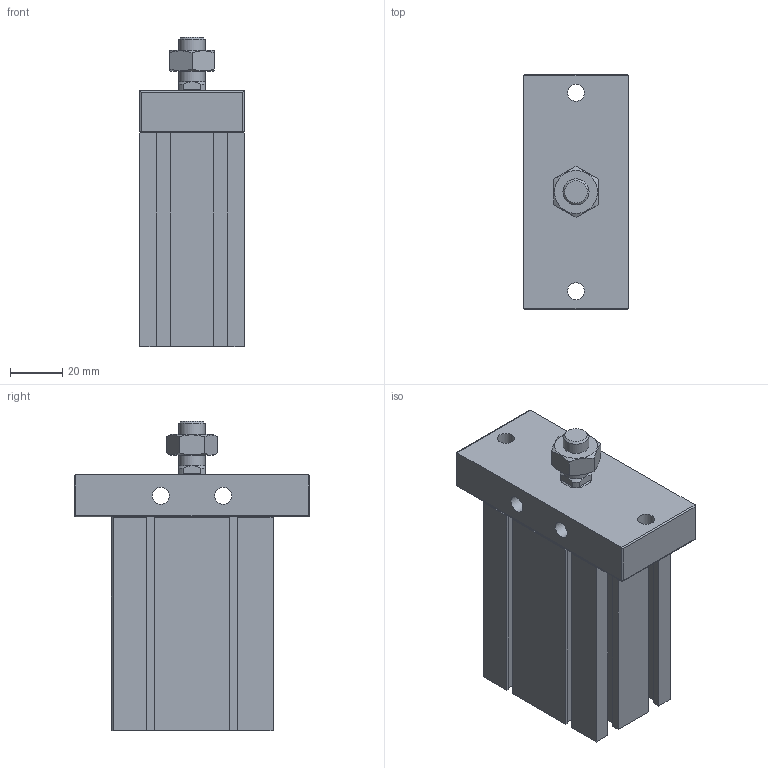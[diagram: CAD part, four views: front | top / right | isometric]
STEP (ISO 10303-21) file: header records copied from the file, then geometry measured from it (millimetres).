
FILE_DESCRIPTION((''),'2;1');
FILE_NAME('J:\3D電子目錄\氣缸\ND\ND\ND32-FB\ND32x50-FB.stp','2008-03-13T08:22:57',('66-2f-008'),(''),'Autodesk Inventor 11','Autodesk Inventor 11','');
FILE_SCHEMA(('AUTOMOTIVE_DESIGN { 1 0 10303 214 1 1 1 1 }'));
Length unit declared in the file: millimetre
Products named in the file (1): ND32-FB
Bounding box: 40 x 90 x 118.5 mm (x, y, z)
Volume: 236515.7 mm3; surface area: 42270 mm2
Topology: 2 solids, 2 shells, 154 faces, 393 edges, 252 vertices
Faces by surface type: plane 99, cylinder 23, cone 15, bspline 14, sphere 2, torus 1
Full cylindrical faces by diameter (mm): 2.2 x2, 6.5 x2, 10 x2, 23 x1, 34 x1, 36 x1
Entity records: 4540 total; most frequent: CARTESIAN_POINT 979, ORIENTED_EDGE 710, DIRECTION 702, EDGE_CURVE 355, VECTOR 250, LINE 250, VERTEX_POINT 247, AXIS2_PLACEMENT_3D 226
